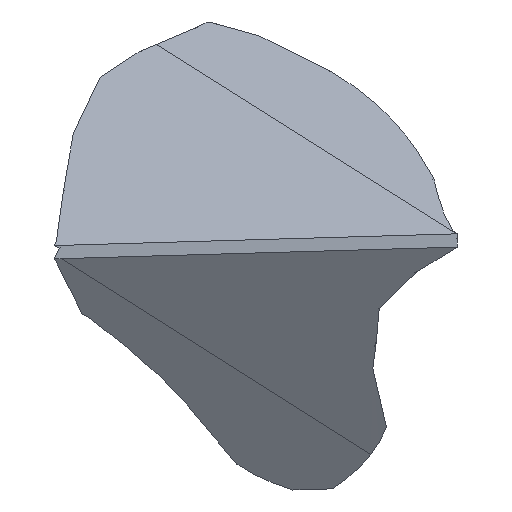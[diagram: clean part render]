
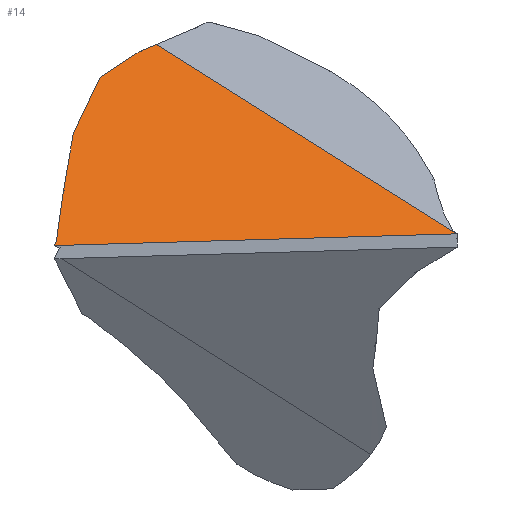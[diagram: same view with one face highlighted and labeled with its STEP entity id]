
A CAD part, top view. The second image highlights one B-rep face of the part: STEP entity #14.
In plain terms, the highlighted planar face has unit normal (-0.017, 0.58, 0.815).
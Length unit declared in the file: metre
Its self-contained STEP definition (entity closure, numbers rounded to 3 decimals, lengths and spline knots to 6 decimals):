
#14=ADVANCED_FACE('',(#63),#701,.T.);
#63=FACE_OUTER_BOUND('',#112,.T.);
#112=EDGE_LOOP('',(#161,#162,#163,#164,#165,#166,#167));
#161=ORIENTED_EDGE('',*,*,#387,.T.);
#162=ORIENTED_EDGE('',*,*,#388,.T.);
#163=ORIENTED_EDGE('',*,*,#389,.T.);
#164=ORIENTED_EDGE('',*,*,#465,.T.);
#165=ORIENTED_EDGE('',*,*,#475,.T.);
#166=ORIENTED_EDGE('',*,*,#386,.F.);
#167=ORIENTED_EDGE('',*,*,#383,.T.);
#383=EDGE_CURVE('',#605,#607,#494,.T.);
#386=EDGE_CURVE('',#605,#611,#497,.T.);
#387=EDGE_CURVE('',#607,#608,#498,.T.);
#388=EDGE_CURVE('',#608,#609,#499,.T.);
#389=EDGE_CURVE('',#609,#610,#500,.T.);
#465=EDGE_CURVE('',#610,#631,#576,.T.);
#475=EDGE_CURVE('',#631,#611,#586,.T.);
#494=B_SPLINE_CURVE_WITH_KNOTS('',1,(#1079,#1080),.UNSPECIFIED.,.F.,.F.,
(2,2),(0.020074,0.733326),.UNSPECIFIED.);
#497=B_SPLINE_CURVE_WITH_KNOTS('',3,(#1087,#1088,#1089,#1090),
 .UNSPECIFIED.,.F.,.F.,(4,4),(10.444054,517.517843),
 .UNSPECIFIED.);
#498=B_SPLINE_CURVE_WITH_KNOTS('',3,(#1091,#1092,#1093,#1094),
 .UNSPECIFIED.,.F.,.F.,(4,4),(138.590477,162.909531),
 .UNSPECIFIED.);
#499=B_SPLINE_CURVE_WITH_KNOTS('',3,(#1095,#1096,#1097,#1098,#1099,#1100),
 .UNSPECIFIED.,.F.,.F.,(4,2,4),(162.909531,194.288336,225.667121),
 .UNSPECIFIED.);
#500=B_SPLINE_CURVE_WITH_KNOTS('',3,(#1101,#1102,#1103,#1104),
 .UNSPECIFIED.,.F.,.F.,(4,4),(225.667121,318.860001),
 .UNSPECIFIED.);
#576=B_SPLINE_CURVE_WITH_KNOTS('',3,(#1310,#1311,#1312,#1313,#1314,#1315),
 .UNSPECIFIED.,.F.,.F.,(4,2,4),(318.860001,362.441887,406.023787),
 .UNSPECIFIED.);
#586=B_SPLINE_CURVE_WITH_KNOTS('',3,(#1350,#1351,#1352,#1353,#1354,#1355,
#1356,#1357,#1358,#1359,#1360,#1361,#1362,#1363,#1364,#1365,#1366,#1367,
#1368,#1369,#1370,#1371,#1372,#1373,#1374,#1375,#1376,#1377,#1378,#1379,
#1380,#1381,#1382,#1383,#1384,#1385,#1386,#1387,#1388,#1389,#1390,#1391,
#1392,#1393),.UNSPECIFIED.,.F.,.F.,(4,2,2,2,2,2,2,2,2,2,2,2,2,2,2,2,2,2,
2,2,2,4),(406.023787,431.992509,444.96897,457.915837,
461.154428,464.363993,467.559048,470.728405,473.860954,
476.92323,478.404771,479.845701,480.549587,481.238907,
482.568111,484.987268,487.034727,488.709985,490.069443,
491.180044,492.110168,493.613117),.UNSPECIFIED.);
#605=VERTEX_POINT('',#1015);
#607=VERTEX_POINT('',#1017);
#608=VERTEX_POINT('',#1018);
#609=VERTEX_POINT('',#1019);
#610=VERTEX_POINT('',#1020);
#611=VERTEX_POINT('',#1021);
#631=VERTEX_POINT('',#1041);
#701=PLANE('',#806);
#806=AXIS2_PLACEMENT_3D('',#846,#826,$);
#826=DIRECTION('',(-0.017,0.58,0.815));
#846=CARTESIAN_POINT('',(261.765308,7.91745,729.5));
#1015=CARTESIAN_POINT('',(251.120875,14.636033,724.5));
#1017=CARTESIAN_POINT('',(-127.081216,253.350689,546.847457));
#1018=CARTESIAN_POINT('',(-148.804229,244.234039,552.881826));
#1019=CARTESIAN_POINT('',(-197.8697,211.885063,574.875));
#1020=CARTESIAN_POINT('',(-231.665871,140.785057,624.75));
#1021=CARTESIAN_POINT('',(-255.737415,-0.145736,724.5));
#1041=CARTESIAN_POINT('',(-243.685092,70.320143,674.625));
#1079=CARTESIAN_POINT('',(251.120875,14.636033,724.5));
#1080=CARTESIAN_POINT('',(-127.081216,253.350689,546.847457));
#1087=CARTESIAN_POINT('',(251.120875,14.636033,724.5));
#1088=CARTESIAN_POINT('',(82.168112,9.708777,724.5));
#1089=CARTESIAN_POINT('',(-86.784651,4.781521,724.5));
#1090=CARTESIAN_POINT('',(-255.737415,-0.145736,724.5));
#1091=CARTESIAN_POINT('',(-127.081216,253.350689,546.847457));
#1092=CARTESIAN_POINT('',(-134.31902,250.306631,548.862661));
#1093=CARTESIAN_POINT('',(-141.560244,247.268104,550.873859));
#1094=CARTESIAN_POINT('',(-148.804229,244.234039,552.881826));
#1095=CARTESIAN_POINT('',(-148.804229,244.234039,552.881826));
#1096=CARTESIAN_POINT('',(-157.067509,238.966589,556.457339));
#1097=CARTESIAN_POINT('',(-165.282686,233.629287,560.083537));
#1098=CARTESIAN_POINT('',(-181.633173,222.839122,567.419795));
#1099=CARTESIAN_POINT('',(-189.768161,217.386095,571.129976));
#1100=CARTESIAN_POINT('',(-197.8697,211.885063,574.875));
#1101=CARTESIAN_POINT('',(-197.8697,211.885063,574.875));
#1102=CARTESIAN_POINT('',(-209.11208,188.161228,591.517431));
#1103=CARTESIAN_POINT('',(-220.381093,164.464993,608.139675));
#1104=CARTESIAN_POINT('',(-231.665871,140.785057,624.75));
#1310=CARTESIAN_POINT('',(-231.665871,140.785057,624.75));
#1311=CARTESIAN_POINT('',(-233.747353,127.961721,633.82854));
#1312=CARTESIAN_POINT('',(-235.785813,115.727524,642.48872));
#1313=CARTESIAN_POINT('',(-239.789068,92.283638,659.082208));
#1314=CARTESIAN_POINT('',(-241.75371,81.074812,667.014867));
#1315=CARTESIAN_POINT('',(-243.685092,70.320143,674.625));
#1350=CARTESIAN_POINT('',(-243.685092,70.320143,674.625));
#1351=CARTESIAN_POINT('',(-244.50971,63.290968,679.60801));
#1352=CARTESIAN_POINT('',(-245.340019,56.26222,684.590636));
#1353=CARTESIAN_POINT('',(-246.610038,45.722835,692.061228));
#1354=CARTESIAN_POINT('',(-247.037589,42.211553,694.55023));
#1355=CARTESIAN_POINT('',(-247.908092,35.197958,699.521146));
#1356=CARTESIAN_POINT('',(-248.350465,31.695717,702.003078));
#1357=CARTESIAN_POINT('',(-248.927118,27.319266,705.104376));
#1358=CARTESIAN_POINT('',(-249.043744,26.443676,705.724833));
#1359=CARTESIAN_POINT('',(-249.278991,24.700515,706.959868));
#1360=CARTESIAN_POINT('',(-249.397632,23.832988,707.574481));
#1361=CARTESIAN_POINT('',(-249.638552,22.102246,708.80069));
#1362=CARTESIAN_POINT('',(-249.760715,21.23899,709.412217));
#1363=CARTESIAN_POINT('',(-250.009423,19.519854,710.629914));
#1364=CARTESIAN_POINT('',(-250.135938,18.664014,711.236085));
#1365=CARTESIAN_POINT('',(-250.394841,16.96292,712.440818));
#1366=CARTESIAN_POINT('',(-250.526958,16.117622,713.039259));
#1367=CARTESIAN_POINT('',(-250.79849,14.446989,714.22195));
#1368=CARTESIAN_POINT('',(-250.937668,13.621755,714.806165));
#1369=CARTESIAN_POINT('',(-251.154896,12.398292,715.672054));
#1370=CARTESIAN_POINT('',(-251.227399,11.999558,715.954193));
#1371=CARTESIAN_POINT('',(-251.374611,11.213482,716.51035));
#1372=CARTESIAN_POINT('',(-251.449201,10.826165,716.784356));
#1373=CARTESIAN_POINT('',(-251.563841,10.250027,717.191807));
#1374=CARTESIAN_POINT('',(-251.602043,10.061019,717.325452));
#1375=CARTESIAN_POINT('',(-251.678964,9.687074,717.589837));
#1376=CARTESIAN_POINT('',(-251.717654,9.50214,717.720573));
#1377=CARTESIAN_POINT('',(-251.833024,8.960857,718.103171));
#1378=CARTESIAN_POINT('',(-251.91161,8.604805,718.354784));
#1379=CARTESIAN_POINT('',(-252.142692,7.601998,719.063311));
#1380=CARTESIAN_POINT('',(-252.302459,6.956773,719.518971));
#1381=CARTESIAN_POINT('',(-252.629325,5.769868,720.356489));
#1382=CARTESIAN_POINT('',(-252.791092,5.228532,720.738166));
#1383=CARTESIAN_POINT('',(-253.120296,4.250137,721.427316));
#1384=CARTESIAN_POINT('',(-253.280852,3.81341,721.734669));
#1385=CARTESIAN_POINT('',(-253.60602,3.029277,722.285676));
#1386=CARTESIAN_POINT('',(-253.763643,2.682252,722.529292));
#1387=CARTESIAN_POINT('',(-254.081258,2.059625,722.965552));
#1388=CARTESIAN_POINT('',(-254.234979,1.784408,723.158205));
#1389=CARTESIAN_POINT('',(-254.544164,1.287045,723.505511));
#1390=CARTESIAN_POINT('',(-254.694551,1.065289,723.660139));
#1391=CARTESIAN_POINT('',(-255.120297,0.497812,724.055071));
#1392=CARTESIAN_POINT('',(-255.40927,0.167065,724.2843));
#1393=CARTESIAN_POINT('',(-255.737415,-0.145736,724.5));
